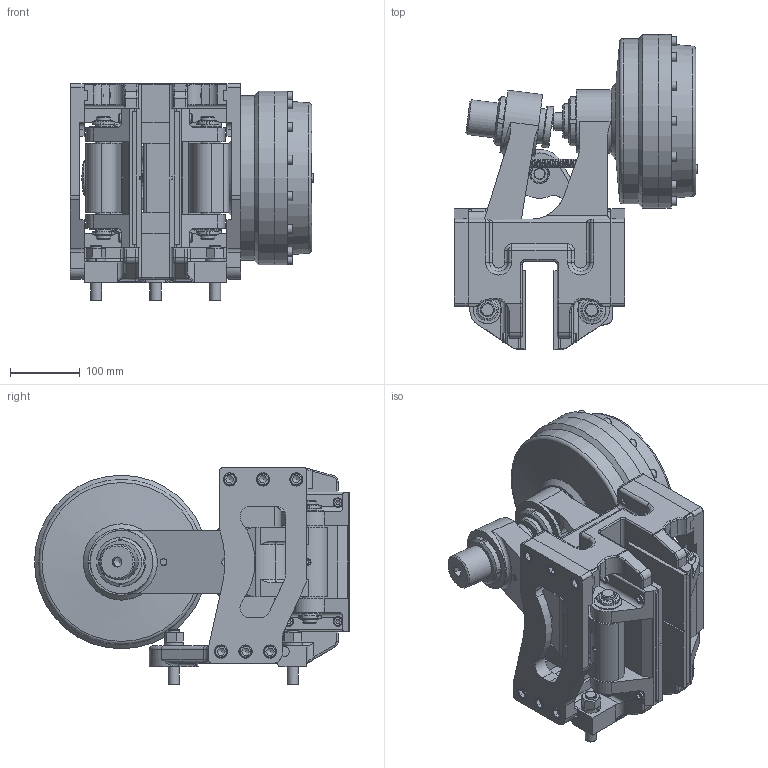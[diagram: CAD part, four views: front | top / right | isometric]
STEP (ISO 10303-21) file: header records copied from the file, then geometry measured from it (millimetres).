
FILE_DESCRIPTION(/* description */ ('','CAx-IF Rec.Pracs.---Representation and Presentation of Product Manufacturing Information (PMI)---4.0---2014-10-13'),/* implementation_level */ '2;1');
FILE_NAME(/* name */ 'X:\INVENTOR\DISEGNI\19_Pinze\STEP x Sito\PNEUM-NEGATIVE\19_36_066_06 PPT-N066_40.stp',/* time_stamp */ '2018-10-25T16:20:46+02:00',/* author */ ('stefano'),/* organization */ (''),/* preprocessor_version */ 'ST-DEVELOPER v17',/* originating_system */ 'Autodesk Inventor 2018',/* authorisation */ '');
FILE_SCHEMA (('AP242_MANAGED_MODEL_BASED_3D_ENGINEERING_MIM_LF { 1 0 10303 442 1 1 4 }'));
Length unit declared in the file: millimetre
Products named in the file (1): 19_36_066_06 PPT-N066_40_Substitute_2
Bounding box: 348.1 x 450 x 310 mm (x, y, z)
Volume: 10328565 mm3; surface area: 1297590.6 mm2
Topology: 1 solids, 1 shells, 1850 faces, 5085 edges, 3318 vertices
Faces by surface type: plane 905, cylinder 525, torus 185, cone 184, bspline 31, sphere 20
Full cylindrical faces by diameter (mm): 1.8 x2, 2.5 x1, 4.917 x6, 5 x2, 6.3 x6, 6.917 x1, 7.4 x1, 7.5 x2, 8 x8, 8.376 x1, 8.5 x8, 8.917 x2, 9 x1, 9.188 x1, 10 x4, 10.106 x9, 10.5 x5, 10.647 x2, 11.445 x2, 12 x13, 12.5 x12, 13 x22, 13.5 x8, 14 x1, 16 x6, 16.5 x5, 17 x3, 18 x13, 18.631 x1, 19 x12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
Entity records: 68644 total; most frequent: CARTESIAN_POINT 19701, DIRECTION 10088, ORIENTED_EDGE 10014, EDGE_CURVE 5007, AXIS2_PLACEMENT_3D 3887, VERTEX_POINT 3318, LINE 2314, VECTOR 2314
